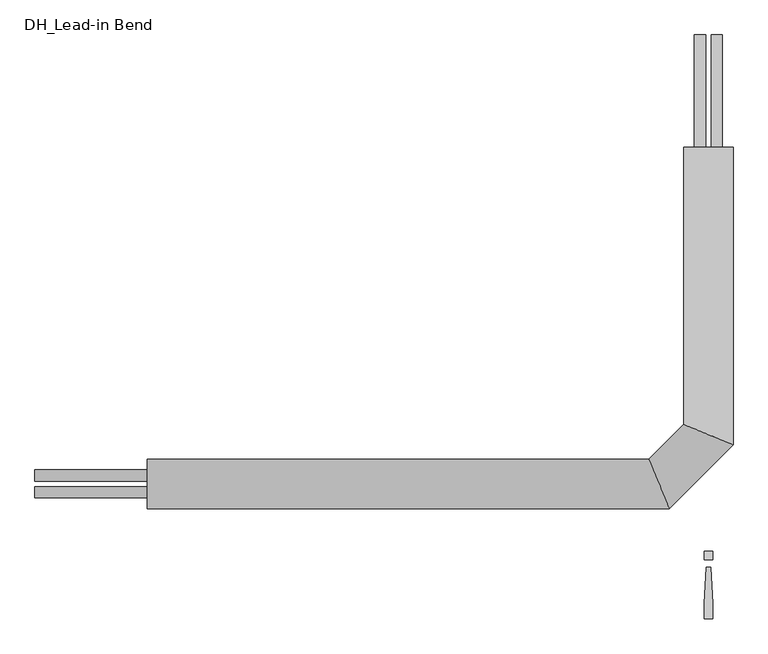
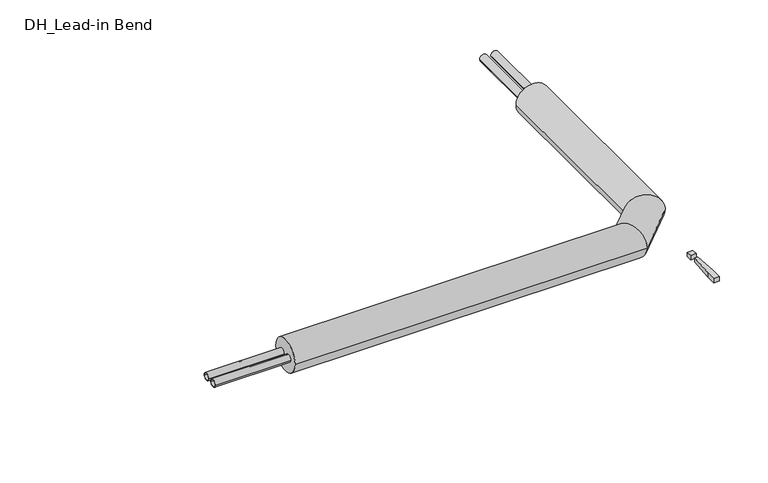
"""IFC4 building model written with IfcOpenShell, lengths in millimetres: pipe fitting geometry, DH_Lead-in Bend : INSULPEX DUO + 11 Heating Vertical."""

import ifcopenshell
import ifcopenshell.guid

model = None  # the IFC model being written
_history = None  # IfcOwnerHistory: only IFC2X3 demands one
_inside = {}  # id of a spatial element -> (the spatial element, [elements in it])
_under = {}  # id of a project, library or spatial element -> (it, [spatial elements below it])
_declared = {}  # id of a project -> (the project, [libraries it declares])
_typed = {}  # id of a type object -> (the type object, [elements of that type])
_made_of = {}  # id of a material, layer set ... -> (it, [elements and type objects made of it])


def new_model(schema):
    """Start an empty IFC model of exactly this schema.

    Asked for "IFC4X3", IfcOpenShell would pick the latest addendum, in which some entities
    have other attributes; the version numbers below select the first issue.
    IFC2X3 requires an IfcOwnerHistory on every rooted entity: one is made here for all.
    """
    global model, _history
    if schema == "IFC4X3":
        model = ifcopenshell.file(schema_version=(4, 3, 0, 0))
    else:
        model = ifcopenshell.file(schema=schema)
    _inside.clear()
    _under.clear()
    _declared.clear()
    _typed.clear()
    _made_of.clear()
    _history = None
    if model.schema == "IFC2X3":
        org = make("IfcOrganization", Name="unknown")
        user = make(
            "IfcPersonAndOrganization",
            ThePerson=make("IfcPerson", FamilyName="unknown"),
            TheOrganization=org,
        )
        app = make(
            "IfcApplication",
            ApplicationDeveloper=org,
            Version="unknown",
            ApplicationFullName="unknown",
            ApplicationIdentifier="unknown",
        )
        _history = make(
            "IfcOwnerHistory",
            OwningUser=user,
            OwningApplication=app,
            ChangeAction="ADDED",
            CreationDate=0,
        )
    return model


def make(cls, **values):
    """One entity of the class cls with the attributes given. An attribute that is None is left unset."""
    return model.create_entity(
        cls, **{name: value for name, value in values.items() if value is not None}
    )


def rooted(cls, **values):
    """An entity with a GlobalId (a new one), such as an element, a storey or a relation."""
    return make(cls, GlobalId=ifcopenshell.guid.new(), OwnerHistory=_history, **values)


def si_unit(unit_type, name, prefix=None):
    """IfcSIUnit, for example si_unit("LENGTHUNIT", "METRE", prefix="MILLI")."""
    return make("IfcSIUnit", UnitType=unit_type, Prefix=prefix, Name=name)


def assignment(units):
    """IfcUnitAssignment: the units of a project."""
    return None if units is None else make("IfcUnitAssignment", Units=units)


def point(xyz):
    """IfcCartesianPoint."""
    return None if xyz is None else make("IfcCartesianPoint", Coordinates=xyz)


def direction(xyz):
    """IfcDirection."""
    return None if xyz is None else make("IfcDirection", DirectionRatios=xyz)


def frame(location, z_axis=None, x_axis=None):
    """IfcAxis2Placement3D, a coordinate frame: its origin and axes. An axis left out is left unset."""
    return make(
        "IfcAxis2Placement3D",
        Location=point(location),
        Axis=direction(z_axis),
        RefDirection=direction(x_axis),
    )


def frame_2d(location, x_axis=None):
    """IfcAxis2Placement2D, a coordinate frame in the plane: its origin and x axis."""
    return make(
        "IfcAxis2Placement2D", Location=point(location), RefDirection=direction(x_axis)
    )


def origin():
    """The frame at (0, 0, 0) with its axes left unset."""
    return frame((0.0, 0.0, 0.0))


def origin_with_axes():
    """The frame at (0, 0, 0) with the z axis (0, 0, 1) and the x axis (1, 0, 0) written out."""
    return frame((0.0, 0.0, 0.0), z_axis=(0.0, 0.0, 1.0), x_axis=(1.0, 0.0, 0.0))


def place(relative_to, where):
    """IfcLocalPlacement: puts the frame where relative to a parent placement (None: the world)."""
    return make(
        "IfcLocalPlacement", PlacementRelTo=relative_to, RelativePlacement=where
    )


def context(
    kind, dimensions, precision=None, world=None, true_north=None, identifier=None
):
    """IfcGeometricRepresentationContext, for example the 3D "Model" context."""
    return make(
        "IfcGeometricRepresentationContext",
        ContextIdentifier=identifier,
        ContextType=kind,
        CoordinateSpaceDimension=dimensions,
        Precision=precision,
        WorldCoordinateSystem=world,
        TrueNorth=true_north,
    )


def project(units=None, contexts=None):
    """IfcProject with its units and contexts."""
    return rooted(
        "IfcProject",
        Name="project",
        RepresentationContexts=contexts,
        UnitsInContext=assignment(units),
    )


def spatial(cls, under=None, at=None, **own):
    """A site, building, storey or space (cls), placed at a placement, below another one or the project."""
    s = rooted(cls, ObjectPlacement=at, **own)
    if under is not None:
        _under.setdefault(under.id(), (under, []))[1].append(s)
    return s


def polyline(points):
    """IfcPolyline through the points."""
    return make("IfcPolyline", Points=[point(p) for p in points])


def circle_curve(where, radius):
    """IfcCircle in the frame where."""
    return make("IfcCircle", Position=where, Radius=radius)


def ellipse_curve(where, semi_axis1, semi_axis2):
    """IfcEllipse in the frame where."""
    return make(
        "IfcEllipse", Position=where, SemiAxis1=semi_axis1, SemiAxis2=semi_axis2
    )


def trimmed(basis, trim1, trim2, sense, master):
    """IfcTrimmedCurve: the piece of a basis curve between two trims."""
    return make(
        "IfcTrimmedCurve",
        BasisCurve=basis,
        Trim1=trim1,
        Trim2=trim2,
        SenseAgreement=sense,
        MasterRepresentation=master,
    )


def segment(curve, same_sense, transition):
    """IfcCompositeCurveSegment."""
    return make(
        "IfcCompositeCurveSegment",
        Transition=transition,
        SameSense=same_sense,
        ParentCurve=curve,
    )


def composite_curve(segments, self_intersect=None):
    """IfcCompositeCurve: segments joined end to end."""
    return make("IfcCompositeCurve", Segments=segments, SelfIntersect=self_intersect)


def outline(outer, holes=None, kind="AREA"):
    """IfcArbitraryClosedProfileDef: a profile drawn as a closed curve; with holes, ...WithVoids."""
    if holes is None:
        return make("IfcArbitraryClosedProfileDef", ProfileType=kind, OuterCurve=outer)
    return make(
        "IfcArbitraryProfileDefWithVoids",
        ProfileType=kind,
        OuterCurve=outer,
        InnerCurves=holes,
    )


def extrude(swept, where, along, depth):
    """IfcExtrudedAreaSolid: the profile swept, set in the frame where, extruded along a direction by depth."""
    return make(
        "IfcExtrudedAreaSolid",
        SweptArea=swept,
        Position=where,
        ExtrudedDirection=direction(along),
        Depth=depth,
    )


def shape(context_of_items, identifier, shape_type, items):
    """IfcShapeRepresentation: the items that make up one representation, for example the "Body"."""
    return make(
        "IfcShapeRepresentation",
        ContextOfItems=context_of_items,
        RepresentationIdentifier=identifier,
        RepresentationType=shape_type,
        Items=items,
    )


def source(mapping_origin, context_of_items, identifier, shape_type, items):
    """IfcRepresentationMap: a shape defined once, which mapped items show again and again."""
    return make(
        "IfcRepresentationMap",
        MappingOrigin=mapping_origin,
        MappedRepresentation=shape(context_of_items, identifier, shape_type, items),
    )


def transform(
    local_origin,
    x_axis=None,
    y_axis=None,
    z_axis=None,
    scale=None,
    scale2=None,
    scale3=None,
    uniform=True,
):
    """IfcCartesianTransformationOperator3D, or its non-uniform kind. x_axis, y_axis, z_axis: its Axis1, 2, 3."""
    if uniform:
        return make(
            "IfcCartesianTransformationOperator3D",
            Axis1=direction(x_axis),
            Axis2=direction(y_axis),
            LocalOrigin=point(local_origin),
            Scale=scale,
            Axis3=direction(z_axis),
        )
    return make(
        "IfcCartesianTransformationOperator3DnonUniform",
        Axis1=direction(x_axis),
        Axis2=direction(y_axis),
        LocalOrigin=point(local_origin),
        Scale=scale,
        Axis3=direction(z_axis),
        Scale2=scale2,
        Scale3=scale3,
    )


def mapped(mapping_source, mapping_target):
    """IfcMappedItem: shows the shape of a source again, moved by a transform."""
    return make(
        "IfcMappedItem", MappingSource=mapping_source, MappingTarget=mapping_target
    )


def made_of(thing, what):
    """Note that an element or type object is made of a material, layer set ...; save() writes the relation."""
    if what is not None:
        _made_of.setdefault(what.id(), (what, []))[1].append(thing)
    return thing


def element(
    cls,
    number,
    at=None,
    inside=None,
    cuts=None,
    type_object=None,
    material=None,
    context=None,
    identifier="Body",
    shape_type=None,
    held_by="IfcProductDefinitionShape",
    body=None,
    shapes=None,
    **own,
):
    """One element of the class cls, such as IfcWall. Its Tag is "e" and its number.

    at: its placement. inside: the storey or other place that contains it. cuts: it is an
    opening in that element (IfcRelVoidsElement). A single representation is given by context,
    identifier, shape_type and body (its items); several are given by shapes. held_by: the class
    of the entity that holds the representations. save() writes the other relations.
    """
    e = rooted(cls, Tag="e%d" % number, ObjectPlacement=at, **own)
    if body is not None:
        shapes = [shape(context, identifier, shape_type, body)]
    if shapes is not None:
        e.Representation = make(held_by, Representations=shapes)
    if inside is not None:
        _inside.setdefault(inside.id(), (inside, []))[1].append(e)
    if cuts is not None:
        rooted(
            "IfcRelVoidsElement", RelatingBuildingElement=cuts, RelatedOpeningElement=e
        )
    if type_object is not None:
        _typed.setdefault(type_object.id(), (type_object, []))[1].append(e)
    return made_of(e, material)


def aggregate(whole, parts):
    """IfcRelAggregates: a whole, such as a stair, and the parts it consists of."""
    return rooted("IfcRelAggregates", RelatingObject=whole, RelatedObjects=parts)


def save(model, path):
    """Write the relations noted so far, then the file.

    IfcRelAggregates (storeys below a building ...), IfcRelContainedInSpatialStructure (elements
    in a storey), IfcRelDefinesByType, IfcRelAssociatesMaterial and IfcRelDeclares: one each for
    every whole, place, type object, material and project.
    """
    for whole, parts in _under.values():
        aggregate(whole, parts)
    for where, things in _inside.values():
        rooted(
            "IfcRelContainedInSpatialStructure",
            RelatedElements=things,
            RelatingStructure=where,
        )
    for kind, things in _typed.values():
        rooted("IfcRelDefinesByType", RelatedObjects=things, RelatingType=kind)
    for what, things in _made_of.values():
        rooted("IfcRelAssociatesMaterial", RelatedObjects=things, RelatingMaterial=what)
    for by, libraries in _declared.values():
        rooted("IfcRelDeclares", RelatingContext=by, RelatedDefinitions=libraries)
    model.write(path)


def plane_surface(at):
    """IfcPlane: the flat surface through the origin of the frame at, square to its z axis."""
    return make("IfcPlane", Position=at)


def cylinder_surface(at, radius):
    """IfcCylindricalSurface: all points at the distance radius from the z axis of the frame at."""
    return make("IfcCylindricalSurface", Position=at, Radius=radius)


def advanced_brep(points, edges, surfaces, faces):
    """IfcAdvancedBrep: a solid bounded by faces that lie on surfaces and meet in shared edges.

    An edge is (start, end): straight between two places in points (the first is 0);
    or (start, end, curve); or (start, end, curve, False) where it runs against its curve.
    A face is (place in surfaces, loops), or (place, loops, False) where it looks against
    its surface's normal. A loop lists edges by number (the first is 1), with a minus sign
    where the edge is run from its end to its start. The first loop is the outer one.
    """
    corners = [point(p) for p in points]
    vertices = [make("IfcVertexPoint", VertexGeometry=c) for c in corners]
    made = []
    for start, end, *more in edges:
        made.append(
            make(
                "IfcEdgeCurve",
                EdgeStart=vertices[start],
                EdgeEnd=vertices[end],
                EdgeGeometry=more[0] if more else make("IfcPolyline", Points=[corners[start], corners[end]]),
                SameSense=more[1] if len(more) > 1 else True,
            )
        )
    hull = []
    for where, loops, *sense in faces:
        bounds = []
        for j, loop in enumerate(loops):
            ring = [make("IfcOrientedEdge", EdgeElement=made[abs(k) - 1], Orientation=k > 0) for k in loop]
            bounds.append(
                make(
                    "IfcFaceOuterBound" if j == 0 else "IfcFaceBound",
                    Bound=make("IfcEdgeLoop", EdgeList=ring),
                    Orientation=True,
                )
            )
        hull.append(make("IfcAdvancedFace", Bounds=bounds, FaceSurface=surfaces[where], SameSense=sense[0] if sense else True))
    return make("IfcAdvancedBrep", Outer=make("IfcClosedShell", CfsFaces=hull))


def dh_lead_in_bend_f578bc5f(model_context):
    return source(origin(), model_context, "Body", "SolidModel", [
        extrude(outline(composite_curve([segment(trimmed(circle_curve(frame_2d((-18.5, 0.0)), 12.5), [point((-6.0, 0.0))], [point((-31.0, 0.0))], False, "CARTESIAN"), True, "CONTINUOUS"), segment(trimmed(circle_curve(frame_2d((-18.5, 0.0)), 12.5), [point((-31.0, 0.0))], [point((-6.0, 0.0))], False, "CARTESIAN"), True, "CONTINUOUS")], self_intersect=False), holes=[composite_curve([segment(trimmed(circle_curve(frame_2d((-18.5, 0.0)), 10.2), [point((-8.3, 0.0))], [point((-28.7, 0.0))], True, "CARTESIAN"), True, "CONTINUOUS"), segment(trimmed(circle_curve(frame_2d((-18.5, 0.0)), 10.2), [point((-28.7, 0.0))], [point((-8.3, 0.0))], True, "CARTESIAN"), True, "CONTINUOUS")], self_intersect=False)]), frame((-1500.0, 0.0, 0.0), z_axis=(1.0, 0.0, 0.0), x_axis=(0.0, 1.0, 0.0)), (0.0, 0.0, 1.0), 250.0),
        advanced_brep(
        [(-1250.0, -55.0, 0.0), (-1250.0, 55.0, 0.0), (-87.2182541, -55.0, 0.0), (-132.7817459, 55.0, 0.0), (55.0, 750.0, 0.0), (-55.0, 750.0, 0.0), (-55.0, 132.7817459, 0.0), (55.0, 87.2182541, 0.0)],
        [
            (0, 1, circle_curve(frame((-1250.0, 0.0, 0.0), z_axis=(-1.0, 0.0, 0.0), x_axis=(0.0, 1.0, 0.0)), 55.0)),
            (1, 0, circle_curve(frame((-1250.0, 0.0, 0.0), z_axis=(-1.0, 0.0, 0.0), x_axis=(0.0, 1.0, 0.0)), 55.0)),
            (0, 2),
            (2, 3, ellipse_curve(frame((-110.0, 0.0, 0.0), z_axis=(-0.9238795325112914, -0.3826834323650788, 0.0), x_axis=(-0.38268343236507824, 0.9238795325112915, 0.0)), 59.531571, 55.0)),
            (3, 1),
            (3, 2, ellipse_curve(frame((-110.0, 0.0, 0.0), z_axis=(-0.9238795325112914, -0.3826834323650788, 0.0), x_axis=(-0.38268343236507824, 0.9238795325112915, 0.0)), 59.531571, 55.0)),
            (4, 5, circle_curve(frame((0.0, 750.0, 0.0), z_axis=(0.0, 1.0, 0.0), x_axis=(-1.0, 0.0, 0.0)), 55.0)),
            (5, 4, circle_curve(frame((0.0, 750.0, 0.0), z_axis=(0.0, 1.0, 0.0), x_axis=(-1.0, 0.0, 0.0)), 55.0)),
            (6, 7, ellipse_curve(frame((0.0, 110.0, 0.0), z_axis=(0.38268343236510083, 0.9238795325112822, 0.0), x_axis=(0.9238795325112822, -0.3826834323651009, 0.0)), 59.531571, 55.0)),
            (7, 4),
            (5, 6),
            (7, 6, ellipse_curve(frame((0.0, 110.0, 0.0), z_axis=(0.38268343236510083, 0.9238795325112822, 0.0), x_axis=(0.9238795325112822, -0.3826834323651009, 0.0)), 59.531571, 55.0)),
            (2, 7),
            (6, 3),
        ],
        [
            plane_surface(frame((-1250.0, 0.0, 0.0), z_axis=(-1.0, 0.0, 0.0), x_axis=(0.0, 0.0, 1.0))),
            cylinder_surface(frame((-1250.0, 0.0, 0.0), z_axis=(-1.0, 0.0, 0.0), x_axis=(0.0, 1.0, 0.0)), 55.0),
            plane_surface(frame((0.0, 750.0, 0.0), z_axis=(0.0, 1.0, 0.0), x_axis=(0.0, 0.0, 1.0))),
            cylinder_surface(frame((0.0, 110.0, 0.0), z_axis=(0.0, -1.0, 0.0), x_axis=(-1.0, 0.0, 0.0)), 55.0),
            cylinder_surface(frame((-110.0, 0.0, 0.0), z_axis=(-0.7071067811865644, -0.7071067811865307, 0.0), x_axis=(-0.7071067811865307, 0.7071067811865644, 0.0)), 55.0),
        ],
        [
            (0, [[1, 2]]),
            (1, [[-1, 3, 4, 5]]),
            (1, [[-2, -5, 6, -3]]),
            (2, [[7, 8]]),
            (3, [[9, 10, -8, 11]]),
            (3, [[12, -11, -7, -10]]),
            (4, [[-4, 13, -9, 14]]),
            (4, [[-6, -14, -12, -13]]),
        ],
    ),
        extrude(outline(composite_curve([segment(trimmed(circle_curve(frame_2d((0.0, -18.5)), 12.5), [point((0.0, -6.0))], [point((0.0, -31.0))], False, "CARTESIAN"), True, "CONTINUOUS"), segment(trimmed(circle_curve(frame_2d((0.0, -18.5)), 12.5), [point((0.0, -31.0))], [point((0.0, -6.0))], False, "CARTESIAN"), True, "CONTINUOUS")], self_intersect=False), holes=[composite_curve([segment(trimmed(circle_curve(frame_2d((0.0, -18.5)), 10.2), [point((0.0, -8.3))], [point((0.0, -28.7))], True, "CARTESIAN"), True, "CONTINUOUS"), segment(trimmed(circle_curve(frame_2d((0.0, -18.5)), 10.2), [point((0.0, -28.7))], [point((0.0, -8.3))], True, "CARTESIAN"), True, "CONTINUOUS")], self_intersect=False)]), frame((0.0, 750.0, 0.0), z_axis=(0.0, 1.0, 0.0), x_axis=(0.0, 0.0, 1.0)), (0.0, 0.0, 1.0), 250.0),
        extrude(outline(composite_curve([segment(trimmed(circle_curve(frame_2d((18.5, 0.0)), 12.5), [point((6.0, 0.0))], [point((31.0, 0.0))], False, "CARTESIAN"), True, "CONTINUOUS"), segment(trimmed(circle_curve(frame_2d((18.5, 0.0)), 12.5), [point((31.0, 0.0))], [point((6.0, 0.0))], False, "CARTESIAN"), True, "CONTINUOUS")], self_intersect=False), holes=[composite_curve([segment(trimmed(circle_curve(frame_2d((18.5, 0.0)), 10.2), [point((8.3, 0.0))], [point((28.7, 0.0))], True, "CARTESIAN"), True, "CONTINUOUS"), segment(trimmed(circle_curve(frame_2d((18.5, 0.0)), 10.2), [point((28.7, 0.0))], [point((8.3, 0.0))], True, "CARTESIAN"), True, "CONTINUOUS")], self_intersect=False)]), frame((-1500.0, 0.0, 0.0), z_axis=(1.0, 0.0, 0.0), x_axis=(0.0, 1.0, 0.0)), (0.0, 0.0, 1.0), 250.0),
        extrude(outline(composite_curve([segment(trimmed(circle_curve(frame_2d((0.0, 18.5)), 12.5), [point((0.0, 6.0))], [point((0.0, 31.0))], False, "CARTESIAN"), True, "CONTINUOUS"), segment(trimmed(circle_curve(frame_2d((0.0, 18.5)), 12.5), [point((0.0, 31.0))], [point((0.0, 6.0))], False, "CARTESIAN"), True, "CONTINUOUS")], self_intersect=False), holes=[composite_curve([segment(trimmed(circle_curve(frame_2d((0.0, 18.5)), 10.2), [point((0.0, 8.3))], [point((0.0, 28.7))], True, "CARTESIAN"), True, "CONTINUOUS"), segment(trimmed(circle_curve(frame_2d((0.0, 18.5)), 10.2), [point((0.0, 28.7))], [point((0.0, 8.3))], True, "CARTESIAN"), True, "CONTINUOUS")], self_intersect=False)]), frame((0.0, 750.0, 0.0), z_axis=(0.0, 1.0, 0.0), x_axis=(0.0, 0.0, 1.0)), (0.0, 0.0, 1.0), 250.0),
        extrude(outline(polyline([(4.7088895, -185.3166715), (9.4177791, -266.6553807), (9.4177791, -300.6844652), (-9.4177791, -300.6844652), (-9.4177791, -266.6553807), (-4.7088895, -185.3166715), (4.7088895, -185.3166715)])), origin_with_axes(), (0.0, 0.0, 1.0), 15.0),
        extrude(outline(polyline([(9.4177791, -150.0), (9.4177791, -168.8355582), (-9.4177791, -168.8355582), (-9.4177791, -150.0), (9.4177791, -150.0)])), origin_with_axes(), (0.0, 0.0, 1.0), 15.0),
    ])


if __name__ == "__main__":
    model = new_model("IFC4")
    model_context = context("Model", 3, world=origin())
    ifc_project = project(units=[si_unit("LENGTHUNIT", "METRE", prefix="MILLI")], contexts=[model_context])
    site = spatial("IfcSite", under=ifc_project)
    building = spatial("IfcBuilding", under=site)
    placement = place(None, origin())
    dh_lead_in_bend_shape = dh_lead_in_bend_f578bc5f(model_context)
    element("IfcPipeFitting", 1, ObjectType="DH_Lead-in Bend : INSULPEX DUO + 11 Heating Vertical", at=placement, inside=building, context=model_context, shape_type="MappedRepresentation", body=[
        mapped(dh_lead_in_bend_shape, transform((0.0, 0.0, 0.0), x_axis=(1.0, 0.0, 0.0), y_axis=(0.0, 1.0, 0.0), z_axis=(0.0, 0.0, 1.0))),
    ])
    save(model, "model.ifc")
